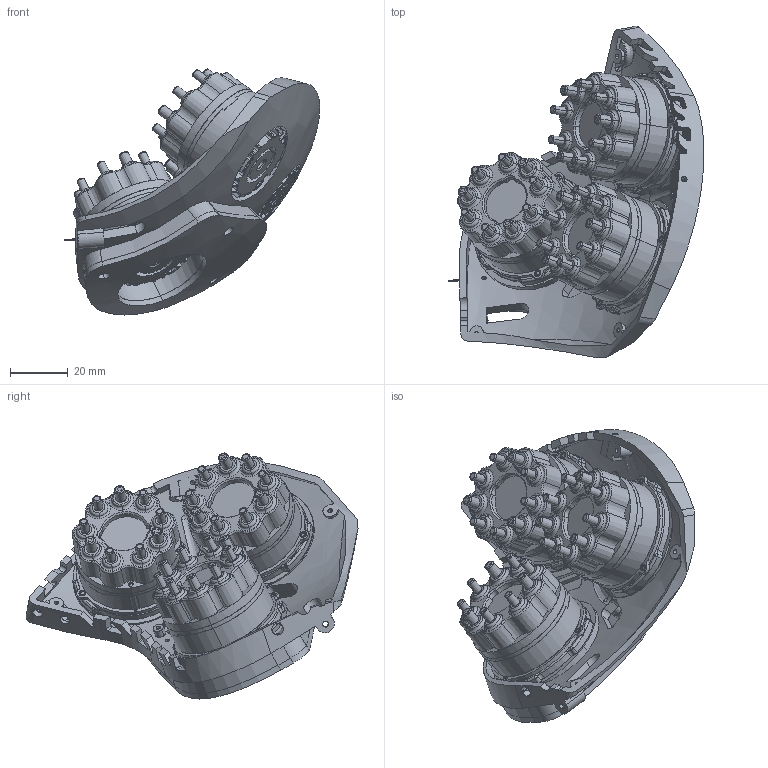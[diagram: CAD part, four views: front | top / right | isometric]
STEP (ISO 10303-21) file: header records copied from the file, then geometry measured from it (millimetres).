
FILE_DESCRIPTION (( 'STEP AP214' ), '1' );
FILE_NAME ('Kernel_Flow2_Simplified_LeftNape_wModules.STEP', '2024-10-04T13:00:38', ( '' ), ( '' ), 'SwSTEP 2.0', 'SolidWorks 2023', '' );
FILE_SCHEMA (( 'AUTOMOTIVE_DESIGN' ));
Length unit declared in the file: millimetre
Products named in the file (6): Kernel_Flow2_Simplified_Left_Nape_Outer_Cover_Rev2; Kernel Generic Module Flow2.STEP_M37; Kernel_Flow2_Simplified_Left_Nape_Plate_Rev2; Kernel Generic Module Flow2.STEP_M35; Kernel Generic Module Flow2.STEP_M33; Kernel_Flow2_Simplified_LeftNape_wModules
Assembly tree (5 placements, depth 2):
  Kernel_Flow2_Simplified_LeftNape_wModules
    Kernel_Flow2_Simplified_Left_Nape_Plate_Rev2
    Kernel_Flow2_Simplified_Left_Nape_Outer_Cover_Rev2
    Kernel Generic Module Flow2.STEP_M37
    Kernel Generic Module Flow2.STEP_M35
    Kernel Generic Module Flow2.STEP_M33
Bounding box: 88.87 x 115.39 x 85.52 mm (x, y, z)
Volume: 35094.3 mm3; surface area: 79377.7 mm2
Topology: 2 solids, 61 shells, 3170 faces, 8025 edges, 5042 vertices
Faces by surface type: cylinder 1134, plane 746, torus 483, cone 429, bspline 243, sphere 135
Entity records: 143805 total; most frequent: CARTESIAN_POINT 68462, DIRECTION 15883, ORIENTED_EDGE 15843, EDGE_CURVE 7932, AXIS2_PLACEMENT_3D 6758, VERTEX_POINT 5018, CIRCLE 3828, EDGE_LOOP 3397
